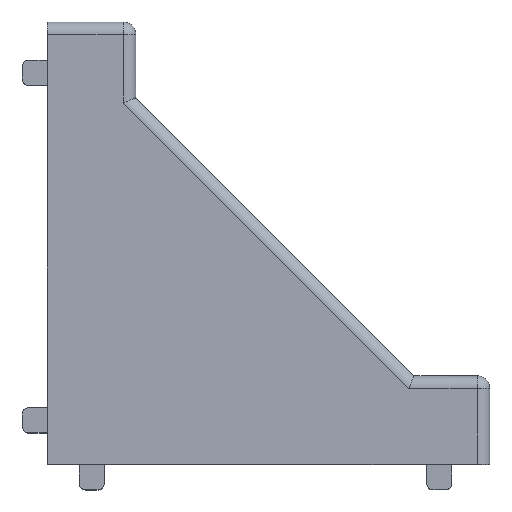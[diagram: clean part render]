
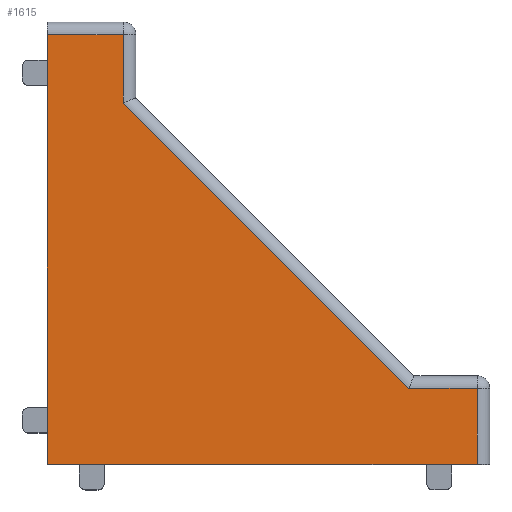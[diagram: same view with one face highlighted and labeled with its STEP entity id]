
A CAD part, top view. The second image highlights one B-rep face of the part: STEP entity #1615.
In plain terms, the highlighted planar face has unit normal (0, 0, 1).
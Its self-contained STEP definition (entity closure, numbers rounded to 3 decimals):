
#8 = VERTEX_POINT ( 'NONE', #1920 ) ;
#10 = CARTESIAN_POINT ( 'NONE',  ( -29., -27.323, 25. ) ) ;
#17 = CARTESIAN_POINT ( 'NONE',  ( -1., -27.323, 25. ) ) ;
#69 = EDGE_CURVE ( 'NONE', #1182, #559, #1686, .T. ) ;
#117 = DIRECTION ( 'NONE',  ( 0., 0., 1. ) ) ;
#136 = FACE_OUTER_BOUND ( 'NONE', #2076, .T. ) ;
#358 = LINE ( 'NONE', #10, #1223 ) ;
#468 = CARTESIAN_POINT ( 'NONE',  ( -35., -27.323, 25. ) ) ;
#481 = VECTOR ( 'NONE', #550, 1000. ) ;
#490 = VECTOR ( 'NONE', #2048, 1000. ) ;
#515 = CARTESIAN_POINT ( 'NONE',  ( -6.414, -21.323, 25. ) ) ;
#550 = DIRECTION ( 'NONE',  ( -0.707, 0.707, 0. ) ) ;
#559 = VERTEX_POINT ( 'NONE', #2503 ) ;
#563 = AXIS2_PLACEMENT_3D ( 'NONE', #468, #117, #3064 ) ;
#583 = DIRECTION ( 'NONE',  ( -1., 0., 0. ) ) ;
#812 = PLANE ( 'NONE',  #563 ) ;
#891 = ORIENTED_EDGE ( 'NONE', *, *, #1191, .T. ) ;
#896 = CARTESIAN_POINT ( 'NONE',  ( -17.707, -10.031, 25. ) ) ;
#905 = EDGE_CURVE ( 'NONE', #2641, #2611, #1276, .T. ) ;
#937 = CARTESIAN_POINT ( 'NONE',  ( -35., -21.323, 25. ) ) ;
#979 = CARTESIAN_POINT ( 'NONE',  ( -35., -27.323, 25. ) ) ;
#1001 = DIRECTION ( 'NONE',  ( -1., 0., 0. ) ) ;
#1105 = EDGE_CURVE ( 'NONE', #8, #1182, #358, .T. ) ;
#1182 = VERTEX_POINT ( 'NONE', #2565 ) ;
#1191 = EDGE_CURVE ( 'NONE', #2611, #8, #1250, .T. ) ;
#1223 = VECTOR ( 'NONE', #2969, 1000. ) ;
#1250 = LINE ( 'NONE', #896, #481 ) ;
#1276 = LINE ( 'NONE', #937, #2117 ) ;
#1303 = CARTESIAN_POINT ( 'NONE',  ( -1., -21.323, 25. ) ) ;
#1340 = CARTESIAN_POINT ( 'NONE',  ( -35., 6.677, 25. ) ) ;
#1460 = ORIENTED_EDGE ( 'NONE', *, *, #69, .T. ) ;
#1473 = EDGE_CURVE ( 'NONE', #559, #3219, #3212, .T. ) ;
#1575 = ORIENTED_EDGE ( 'NONE', *, *, #1105, .T. ) ;
#1590 = ORIENTED_EDGE ( 'NONE', *, *, #1836, .T. ) ;
#1615 = ADVANCED_FACE ( 'NONE', ( #136 ), #812, .T. ) ;
#1686 = LINE ( 'NONE', #1340, #2263 ) ;
#1742 = ORIENTED_EDGE ( 'NONE', *, *, #905, .T. ) ;
#1753 = VECTOR ( 'NONE', #2220, 1000. ) ;
#1778 = DIRECTION ( 'NONE',  ( 1., 0., 0. ) ) ;
#1836 = EDGE_CURVE ( 'NONE', #3219, #3147, #2437, .T. ) ;
#1891 = ORIENTED_EDGE ( 'NONE', *, *, #1473, .T. ) ;
#1920 = CARTESIAN_POINT ( 'NONE',  ( -29., 1.262, 25. ) ) ;
#2048 = DIRECTION ( 'NONE',  ( 0., 1., 0. ) ) ;
#2076 = EDGE_LOOP ( 'NONE', ( #1575, #1460, #1891, #1590, #2499, #1742, #891 ) ) ;
#2108 = CARTESIAN_POINT ( 'NONE',  ( -35., -27.323, 25. ) ) ;
#2117 = VECTOR ( 'NONE', #583, 1000. ) ;
#2191 = VECTOR ( 'NONE', #1778, 1000. ) ;
#2220 = DIRECTION ( 'NONE',  ( 0., -1., 0. ) ) ;
#2263 = VECTOR ( 'NONE', #1001, 1000. ) ;
#2369 = EDGE_CURVE ( 'NONE', #3147, #2641, #2712, .T. ) ;
#2371 = CARTESIAN_POINT ( 'NONE',  ( -1., -21.323, 25. ) ) ;
#2437 = LINE ( 'NONE', #2108, #2191 ) ;
#2499 = ORIENTED_EDGE ( 'NONE', *, *, #2369, .T. ) ;
#2503 = CARTESIAN_POINT ( 'NONE',  ( -35., 6.677, 25. ) ) ;
#2542 = CARTESIAN_POINT ( 'NONE',  ( -35., 7.677, 25. ) ) ;
#2565 = CARTESIAN_POINT ( 'NONE',  ( -29., 6.677, 25. ) ) ;
#2611 = VERTEX_POINT ( 'NONE', #515 ) ;
#2641 = VERTEX_POINT ( 'NONE', #1303 ) ;
#2712 = LINE ( 'NONE', #2371, #490 ) ;
#2969 = DIRECTION ( 'NONE',  ( 0., 1., 0. ) ) ;
#3064 = DIRECTION ( 'NONE',  ( 1., 0., 0. ) ) ;
#3147 = VERTEX_POINT ( 'NONE', #17 ) ;
#3212 = LINE ( 'NONE', #2542, #1753 ) ;
#3219 = VERTEX_POINT ( 'NONE', #979 ) ;
